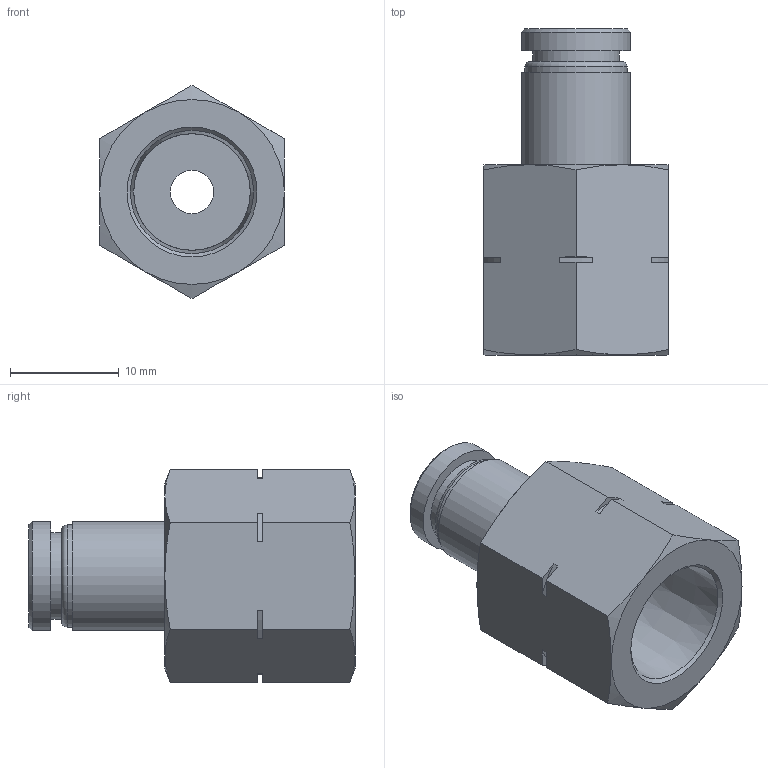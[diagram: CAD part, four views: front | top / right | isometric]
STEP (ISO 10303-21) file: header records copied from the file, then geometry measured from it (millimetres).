
FILE_DESCRIPTION(/* description */ (''),/* implementation_level */ '2;1');
FILE_NAME(/* name */ 'LXH14 0006 N2.stp',/* time_stamp */ '2026-04-28T14:53:44+02:00',/* author */ ('freju'),/* organization */ (''),/* preprocessor_version */ 'ST-DEVELOPER v20.1',/* originating_system */ 'Autodesk Inventor 2026',/* authorisation */ '');
FILE_SCHEMA (('AUTOMOTIVE_DESIGN { 1 0 10303 214 3 1 1 }'));
Length unit declared in the file: millimetre
Products named in the file (1): LXH14 0006 N2
Bounding box: 17 x 30 x 19.63 mm (x, y, z)
Volume: 3688 mm3; surface area: 2658 mm2
Topology: 1 solids, 1 shells, 56 faces, 129 edges, 82 vertices
Faces by surface type: plane 27, cone 15, cylinder 13, torus 1
Full cylindrical faces by diameter (mm): 4 x1, 6 x1, 8 x1, 9.4 x1, 10 x2, 10.719 x1
Entity records: 1607 total; most frequent: CARTESIAN_POINT 316, DIRECTION 266, ORIENTED_EDGE 258, EDGE_CURVE 129, AXIS2_PLACEMENT_3D 104, VERTEX_POINT 82, EDGE_LOOP 65, LINE 58
